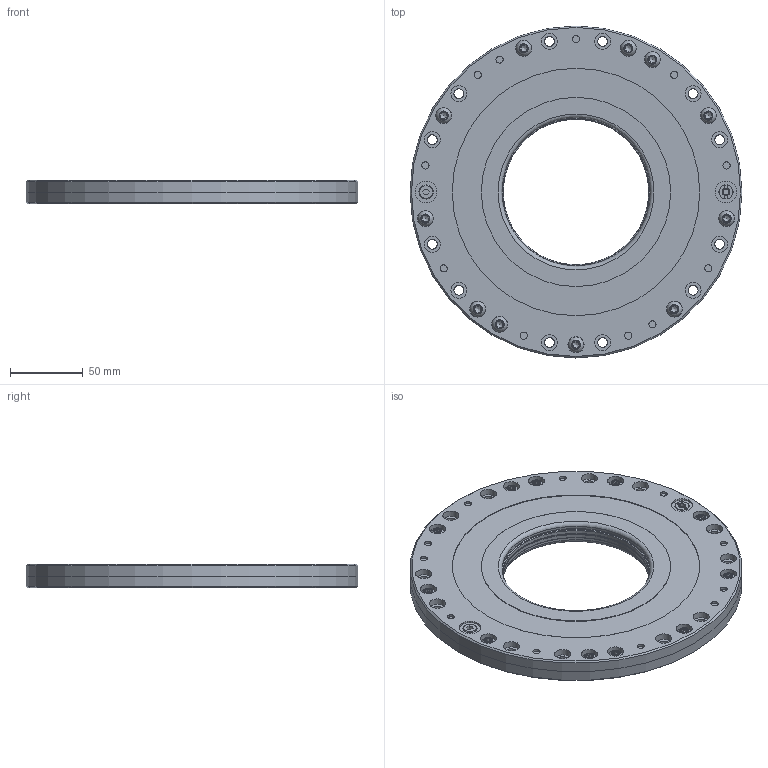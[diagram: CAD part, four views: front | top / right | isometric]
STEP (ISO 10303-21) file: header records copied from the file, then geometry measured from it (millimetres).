
FILE_DESCRIPTION(/* description */ ('Unknown'),/* implementation_level */ '2;1');
FILE_NAME(/* name */ '10032487_RC 100 N_6bar+Booster',/* time_stamp */ '2025-07-29T14:59:25+02:00',/* author */ ('Unknown'),/* organization */ ('Unknown'),/* preprocessor_version */ 'ST-DEVELOPER v19.4',/* originating_system */ 'Solid Edge',/* authorisation */ 'Unknown');
FILE_SCHEMA (('CONFIG_CONTROL_DESIGN'));
Length unit declared in the file: millimetre
Products named in the file (7): 10032487; Linsenkopfschraube ISO 7380 TX M6 x 10 Ph 012.9; Verschlussschraube G1;8 x 4,5; 34-06-0051-e001; 34-00-0094-e001; 34-06-0064-e001; Gewindestift DIN 913 - M6x4 VA
Assembly tree (30 placements, depth 2):
  10032487
    Linsenkopfschraube ISO 7380 TX M6 x 10 Ph 012.9  x22
    Verschlussschraube G1;8 x 4,5  x3
    34-06-0051-e001
    34-00-0094-e001  x2
    34-06-0064-e001
    Gewindestift DIN 913 - M6x4 VA
Bounding box: 228 x 228 x 16.4 mm (x, y, z)
Volume: 495058.2 mm3; surface area: 170417.4 mm2
Topology: 30 solids, 30 shells, 1249 faces, 2988 edges, 1863 vertices
Faces by surface type: cylinder 751, cone 202, plane 179, torus 95, sphere 22
Full cylindrical faces by diameter (mm): 1.5 x5, 4.917 x23, 5.6 x22, 6 x46, 6.8 x47, 7.4 x1, 8.4 x1, 8.566 x4, 9.728 x4, 10.5 x22, 11 x48, 15 x4, 100 x2, 103.6 x2, 130 x2, 170 x2, 228 x2
Entity records: 8822 total; most frequent: CARTESIAN_POINT 2001, DIRECTION 1060, ORIENTED_EDGE 900, AXIS2_PLACEMENT_3D 479, FACE_BOUND 466, EDGE_LOOP 464, EDGE_CURVE 450, VERTEX_POINT 348
